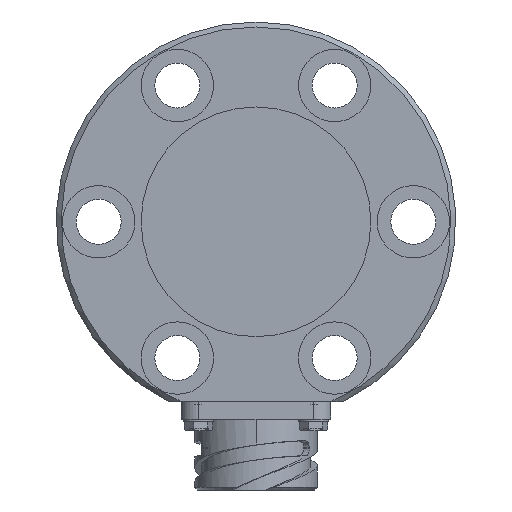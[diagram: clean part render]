
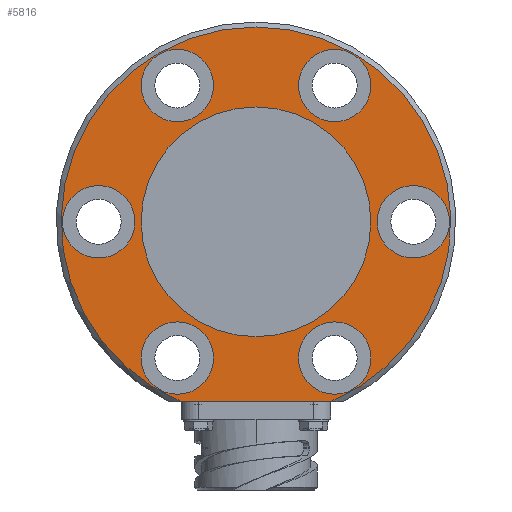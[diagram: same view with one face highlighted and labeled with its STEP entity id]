
A CAD part, left-side view. The second image highlights one B-rep face of the part: STEP entity #5816.
In plain terms, the highlighted planar face has unit normal (-1, 0, 0).
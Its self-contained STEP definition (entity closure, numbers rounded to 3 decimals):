
#997=CARTESIAN_POINT('',(0.,-14.999,
-36.));
#1027=CARTESIAN_POINT('',(0.,14.999,
-36.));
#1479=DIRECTION('',(0.,1.,0.));
#1480=VECTOR('',#1479,29.999);
#1481=CARTESIAN_POINT('',(0.,-14.999,
-36.));
#1482=LINE('',#1481,#1480);
#1483=CARTESIAN_POINT('',(0.,0.,
0.));
#1484=DIRECTION('',(1.,0.,0.));
#1485=DIRECTION('',(0.,0.385,-0.923));
#1486=AXIS2_PLACEMENT_3D('',#1483,#1484,#1485);
#1488=CARTESIAN_POINT('',(0.,0.,
0.));
#1489=DIRECTION('',(1.,0.,0.));
#1490=DIRECTION('',(0.,0.,1.));
#1491=AXIS2_PLACEMENT_3D('',#1488,#1489,#1490);
#1493=CARTESIAN_POINT('',(0.,0.,0.));
#1494=DIRECTION('',(-1.,0.,0.));
#1495=DIRECTION('',(0.,-1.,0.));
#1496=AXIS2_PLACEMENT_3D('',#1493,#1494,#1495);
#1498=CARTESIAN_POINT('',(0.,0.,0.));
#1499=DIRECTION('',(-1.,0.,0.));
#1500=DIRECTION('',(0.,1.,0.));
#1501=AXIS2_PLACEMENT_3D('',#1498,#1499,#1500);
#1503=CARTESIAN_POINT('',(0.,-15.75,27.28));
#1504=DIRECTION('',(-1.,0.,0.));
#1505=DIRECTION('',(0.,1.,0.));
#1506=AXIS2_PLACEMENT_3D('',#1503,#1504,#1505);
#1508=CARTESIAN_POINT('',(0.,-15.75,27.28));
#1509=DIRECTION('',(-1.,0.,0.));
#1510=DIRECTION('',(0.,-1.,0.));
#1511=AXIS2_PLACEMENT_3D('',#1508,#1509,#1510);
#1513=CARTESIAN_POINT('',(0.,15.75,27.28));
#1514=DIRECTION('',(-1.,0.,0.));
#1515=DIRECTION('',(0.,0.5,-0.866));
#1516=AXIS2_PLACEMENT_3D('',#1513,#1514,#1515);
#1518=CARTESIAN_POINT('',(0.,15.75,27.28));
#1519=DIRECTION('',(-1.,0.,0.));
#1520=DIRECTION('',(0.,-0.5,0.866));
#1521=AXIS2_PLACEMENT_3D('',#1518,#1519,#1520);
#1523=CARTESIAN_POINT('',(0.,31.5,0.));
#1524=DIRECTION('',(-1.,0.,0.));
#1525=DIRECTION('',(0.,-0.5,-0.866));
#1526=AXIS2_PLACEMENT_3D('',#1523,#1524,#1525);
#1528=CARTESIAN_POINT('',(0.,31.5,0.));
#1529=DIRECTION('',(-1.,0.,0.));
#1530=DIRECTION('',(0.,0.5,0.866));
#1531=AXIS2_PLACEMENT_3D('',#1528,#1529,#1530);
#1533=CARTESIAN_POINT('',(0.,15.75,-27.28));
#1534=DIRECTION('',(-1.,0.,0.));
#1535=DIRECTION('',(0.,-1.,0.));
#1536=AXIS2_PLACEMENT_3D('',#1533,#1534,#1535);
#1538=CARTESIAN_POINT('',(0.,15.75,-27.28));
#1539=DIRECTION('',(-1.,0.,0.));
#1540=DIRECTION('',(0.,1.,0.));
#1541=AXIS2_PLACEMENT_3D('',#1538,#1539,#1540);
#1543=CARTESIAN_POINT('',(0.,-15.75,-27.28));
#1544=DIRECTION('',(-1.,0.,0.));
#1545=DIRECTION('',(0.,-0.5,0.866));
#1546=AXIS2_PLACEMENT_3D('',#1543,#1544,#1545);
#1548=CARTESIAN_POINT('',(0.,-15.75,-27.28));
#1549=DIRECTION('',(-1.,0.,0.));
#1550=DIRECTION('',(0.,0.5,-0.866));
#1551=AXIS2_PLACEMENT_3D('',#1548,#1549,#1550);
#1553=CARTESIAN_POINT('',(0.,-31.5,0.));
#1554=DIRECTION('',(-1.,0.,0.));
#1555=DIRECTION('',(0.,0.5,0.866));
#1556=AXIS2_PLACEMENT_3D('',#1553,#1554,#1555);
#1558=CARTESIAN_POINT('',(0.,-31.5,0.));
#1559=DIRECTION('',(-1.,0.,0.));
#1560=DIRECTION('',(0.,-0.5,-0.866));
#1561=AXIS2_PLACEMENT_3D('',#1558,#1559,#1560);
#3435=VERTEX_POINT('',#997);
#3445=VERTEX_POINT('',#1027);
#3448=CARTESIAN_POINT('',(0.,0.,
39.));
#3449=VERTEX_POINT('',#3448);
#3566=CARTESIAN_POINT('',(0.,-8.5,27.28));
#3567=CARTESIAN_POINT('',(0.,-23.,27.28));
#3568=VERTEX_POINT('',#3566);
#3569=VERTEX_POINT('',#3567);
#3570=CARTESIAN_POINT('',(0.,-23.,0.));
#3571=CARTESIAN_POINT('',(0.,23.,0.));
#3572=VERTEX_POINT('',#3570);
#3573=VERTEX_POINT('',#3571);
#3574=CARTESIAN_POINT('',(0.,19.375,21.001));
#3575=CARTESIAN_POINT('',(0.,12.125,33.558));
#3576=VERTEX_POINT('',#3574);
#3577=VERTEX_POINT('',#3575);
#3578=CARTESIAN_POINT('',(0.,27.875,-6.279));
#3579=CARTESIAN_POINT('',(0.,35.125,6.279));
#3580=VERTEX_POINT('',#3578);
#3581=VERTEX_POINT('',#3579);
#3582=CARTESIAN_POINT('',(0.,8.5,-27.28));
#3583=CARTESIAN_POINT('',(0.,23.,-27.28));
#3584=VERTEX_POINT('',#3582);
#3585=VERTEX_POINT('',#3583);
#3586=CARTESIAN_POINT('',(0.,-19.375,-21.001));
#3587=CARTESIAN_POINT('',(0.,-12.125,-33.558));
#3588=VERTEX_POINT('',#3586);
#3589=VERTEX_POINT('',#3587);
#3590=CARTESIAN_POINT('',(0.,-27.875,6.279));
#3591=CARTESIAN_POINT('',(0.,-35.125,-6.279));
#3592=VERTEX_POINT('',#3590);
#3593=VERTEX_POINT('',#3591);
#5765=CARTESIAN_POINT('',(0.,0.,0.));
#5766=DIRECTION('',(-1.,0.,0.));
#5767=DIRECTION('',(0.,0.,-1.));
#5768=AXIS2_PLACEMENT_3D('',#5765,#5766,#5767);
#5769=PLANE('',#5768);
#5770=ORIENTED_EDGE('',*,*,#5116,.T.);
#5771=ORIENTED_EDGE('',*,*,#5143,.T.);
#5772=ORIENTED_EDGE('',*,*,#5141,.T.);
#5773=EDGE_LOOP('',(#5770,#5771,#5772));
#5774=FACE_OUTER_BOUND('',#5773,.F.);
#5776=ORIENTED_EDGE('',*,*,#5775,.T.);
#5778=ORIENTED_EDGE('',*,*,#5777,.T.);
#5779=EDGE_LOOP('',(#5776,#5778));
#5780=FACE_BOUND('',#5779,.F.);
#5781=ORIENTED_EDGE('',*,*,#5755,.T.);
#5783=ORIENTED_EDGE('',*,*,#5782,.T.);
#5784=EDGE_LOOP('',(#5781,#5783));
#5785=FACE_BOUND('',#5784,.F.);
#5787=ORIENTED_EDGE('',*,*,#5786,.T.);
#5789=ORIENTED_EDGE('',*,*,#5788,.T.);
#5790=EDGE_LOOP('',(#5787,#5789));
#5791=FACE_BOUND('',#5790,.F.);
#5793=ORIENTED_EDGE('',*,*,#5792,.T.);
#5795=ORIENTED_EDGE('',*,*,#5794,.T.);
#5796=EDGE_LOOP('',(#5793,#5795));
#5797=FACE_BOUND('',#5796,.F.);
#5799=ORIENTED_EDGE('',*,*,#5798,.T.);
#5801=ORIENTED_EDGE('',*,*,#5800,.T.);
#5802=EDGE_LOOP('',(#5799,#5801));
#5803=FACE_BOUND('',#5802,.F.);
#5805=ORIENTED_EDGE('',*,*,#5804,.T.);
#5807=ORIENTED_EDGE('',*,*,#5806,.T.);
#5808=EDGE_LOOP('',(#5805,#5807));
#5809=FACE_BOUND('',#5808,.F.);
#5811=ORIENTED_EDGE('',*,*,#5810,.T.);
#5813=ORIENTED_EDGE('',*,*,#5812,.T.);
#5814=EDGE_LOOP('',(#5811,#5813));
#5815=FACE_BOUND('',#5814,.F.);
#5816=ADVANCED_FACE('',(#5774,#5780,#5785,#5791,#5797,#5803,#5809,#5815),#5769,
.T.);
#1487=CIRCLE('',#1486,39.);
#1492=CIRCLE('',#1491,39.);
#1497=CIRCLE('',#1496,23.);
#1502=CIRCLE('',#1501,23.);
#1507=CIRCLE('',#1506,7.25);
#1512=CIRCLE('',#1511,7.25);
#1517=CIRCLE('',#1516,7.25);
#1522=CIRCLE('',#1521,7.25);
#1527=CIRCLE('',#1526,7.25);
#1532=CIRCLE('',#1531,7.25);
#1537=CIRCLE('',#1536,7.25);
#1542=CIRCLE('',#1541,7.25);
#1547=CIRCLE('',#1546,7.25);
#1552=CIRCLE('',#1551,7.25);
#1557=CIRCLE('',#1556,7.25);
#1562=CIRCLE('',#1561,7.25);
#5116=EDGE_CURVE('',#3435,#3445,#1482,.T.);
#5141=EDGE_CURVE('',#3449,#3435,#1492,.T.);
#5143=EDGE_CURVE('',#3445,#3449,#1487,.T.);
#5755=EDGE_CURVE('',#3568,#3569,#1507,.T.);
#5775=EDGE_CURVE('',#3572,#3573,#1497,.T.);
#5777=EDGE_CURVE('',#3573,#3572,#1502,.T.);
#5782=EDGE_CURVE('',#3569,#3568,#1512,.T.);
#5786=EDGE_CURVE('',#3576,#3577,#1517,.T.);
#5788=EDGE_CURVE('',#3577,#3576,#1522,.T.);
#5792=EDGE_CURVE('',#3580,#3581,#1527,.T.);
#5794=EDGE_CURVE('',#3581,#3580,#1532,.T.);
#5798=EDGE_CURVE('',#3584,#3585,#1537,.T.);
#5800=EDGE_CURVE('',#3585,#3584,#1542,.T.);
#5804=EDGE_CURVE('',#3588,#3589,#1547,.T.);
#5806=EDGE_CURVE('',#3589,#3588,#1552,.T.);
#5810=EDGE_CURVE('',#3592,#3593,#1557,.T.);
#5812=EDGE_CURVE('',#3593,#3592,#1562,.T.);
